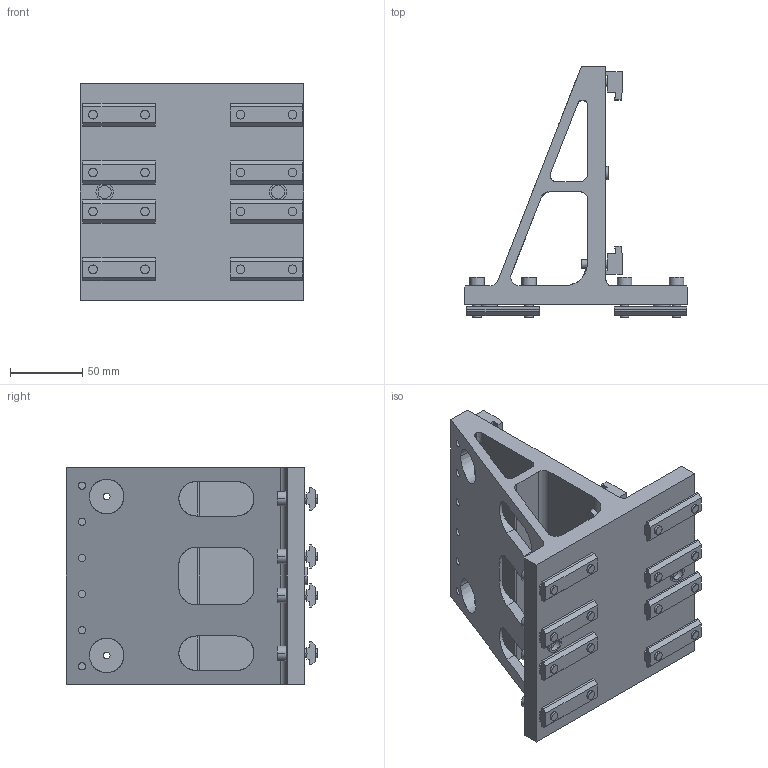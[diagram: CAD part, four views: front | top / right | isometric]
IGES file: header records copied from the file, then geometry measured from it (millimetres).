
Start section:  PTC IGES file: R039110326\r039110326.iges
Global section: file name: R039110326\r039110326.iges; native system: Creo Parametric by PTC Inc.; preprocessor: 2020044; author: THD3HC; organization: Unknown; date: 20230925.115058; units: millimetre
Bounding box: 155 x 174.2 x 150 mm (x, y, z)
Surface area: 191442.2 mm2 (no closed solid volume)
Topology: 0 solids, 0 shells, 541 faces, 2738 edges, 2738 vertices
Faces by surface type: bspline 293, revolution 248
